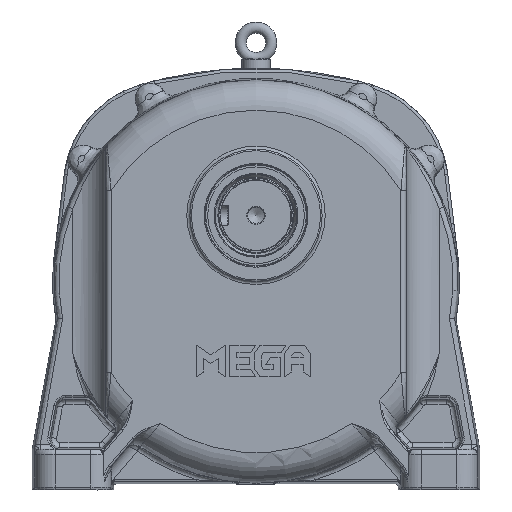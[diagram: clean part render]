
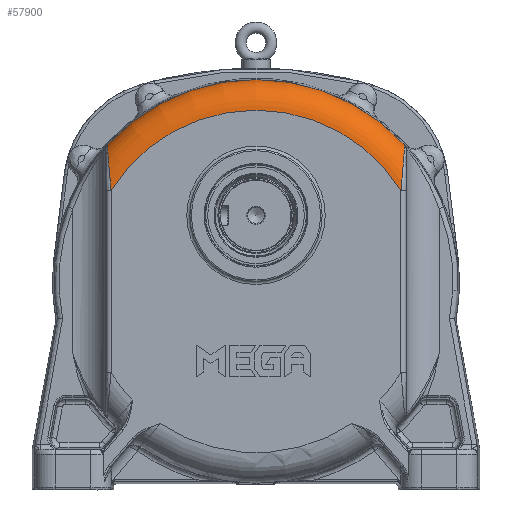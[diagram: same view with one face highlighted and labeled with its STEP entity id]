
A CAD part, front view. The second image highlights one B-rep face of the part: STEP entity #57900.
In plain terms, the highlighted toroidal (fillet/blend) face has major radius 168.286 mm and minor radius 30 mm.
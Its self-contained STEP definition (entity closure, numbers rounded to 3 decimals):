
#1997=B_SPLINE_CURVE_WITH_KNOTS('',3,(#111094,#111095,#111096,#111097),
 .UNSPECIFIED.,.F.,.F.,(4,4),(0.,0.483),.UNSPECIFIED.);
#1998=B_SPLINE_CURVE_WITH_KNOTS('',3,(#111148,#111149,#111150,#111151,#111152,
#111153,#111154,#111155),.UNSPECIFIED.,.F.,.F.,(4,1,1,1,1,4),(-4.797,
-3.426,-2.056,-1.028,-0.685,
0.),.UNSPECIFIED.);
#2010=B_SPLINE_CURVE_WITH_KNOTS('',3,(#111481,#111482,#111483,#111484,#111485,
#111486,#111487,#111488),.UNSPECIFIED.,.F.,.F.,(4,1,1,1,1,4),(-4.797,
-4.112,-3.427,-2.056,-0.685,
0.),.UNSPECIFIED.);
#2012=B_SPLINE_CURVE_WITH_KNOTS('',3,(#111516,#111517,#111518,#111519),
 .UNSPECIFIED.,.F.,.F.,(4,4),(-0.483,0.),.UNSPECIFIED.);
#3004=TOROIDAL_SURFACE('',#62902,168.286,30.);
#6375=FACE_OUTER_BOUND('',#9922,.T.);
#9922=EDGE_LOOP('',(#43105,#43106,#43107,#43108,#43109,#43110));
#19577=CIRCLE('',#62598,168.286);
#19728=CIRCLE('',#62903,198.284);
#23830=VERTEX_POINT('',#106384);
#23831=VERTEX_POINT('',#106386);
#24138=VERTEX_POINT('',#111051);
#24140=VERTEX_POINT('',#111092);
#24152=VERTEX_POINT('',#111479);
#24154=VERTEX_POINT('',#111514);
#30425=EDGE_CURVE('',#23831,#23830,#19577,.T.);
#30926=EDGE_CURVE('',#24140,#24138,#1997,.T.);
#30928=EDGE_CURVE('',#23831,#24140,#1998,.T.);
#30950=EDGE_CURVE('',#24152,#23830,#2010,.T.);
#30953=EDGE_CURVE('',#24154,#24152,#2012,.T.);
#30961=EDGE_CURVE('',#24154,#24138,#19728,.T.);
#43105=ORIENTED_EDGE('',*,*,#30928,.F.);
#43106=ORIENTED_EDGE('',*,*,#30425,.T.);
#43107=ORIENTED_EDGE('',*,*,#30950,.F.);
#43108=ORIENTED_EDGE('',*,*,#30953,.F.);
#43109=ORIENTED_EDGE('',*,*,#30961,.T.);
#43110=ORIENTED_EDGE('',*,*,#30926,.F.);
#57900=ADVANCED_FACE('',(#6375),#3004,.T.);
#62598=AXIS2_PLACEMENT_3D('',#106387,#72865,#72866);
#62902=AXIS2_PLACEMENT_3D('',#111604,#73637,#73638);
#62903=AXIS2_PLACEMENT_3D('',#111605,#73639,#73640);
#72865=DIRECTION('center_axis',(0.,1.,0.));
#72866=DIRECTION('ref_axis',(-1.,0.,0.));
#73637=DIRECTION('center_axis',(0.,1.,0.));
#73638=DIRECTION('ref_axis',(0.,0.,1.));
#73639=DIRECTION('center_axis',(0.,-1.,0.));
#73640=DIRECTION('ref_axis',(-1.,0.,0.));
#106384=CARTESIAN_POINT('',(129.809,-19.258,87.77));
#106386=CARTESIAN_POINT('',(-155.191,-19.258,87.77));
#106387=CARTESIAN_POINT('Origin',(-12.691,-19.258,-1.75));
#111051=CARTESIAN_POINT('',(-159.189,10.455,131.873));
#111092=CARTESIAN_POINT('',(-158.812,4.742,131.388));
#111094=CARTESIAN_POINT('Ctrl Pts',(-158.812,4.742,
131.388));
#111095=CARTESIAN_POINT('Ctrl Pts',(-158.853,6.59,
131.904));
#111096=CARTESIAN_POINT('Ctrl Pts',(-158.979,8.555,
132.076));
#111097=CARTESIAN_POINT('Ctrl Pts',(-159.189,10.455,131.873));
#111148=CARTESIAN_POINT('Ctrl Pts',(-155.191,-19.258,
87.77));
#111149=CARTESIAN_POINT('Ctrl Pts',(-155.603,-19.258,
92.597));
#111150=CARTESIAN_POINT('Ctrl Pts',(-156.436,-18.415,
102.342));
#111151=CARTESIAN_POINT('Ctrl Pts',(-157.535,-14.01,
115.486));
#111152=CARTESIAN_POINT('Ctrl Pts',(-158.217,-7.794,
123.899));
#111153=CARTESIAN_POINT('Ctrl Pts',(-158.614,-1.566,
128.866));
#111154=CARTESIAN_POINT('Ctrl Pts',(-158.755,2.119,
130.656));
#111155=CARTESIAN_POINT('Ctrl Pts',(-158.812,4.742,
131.388));
#111479=CARTESIAN_POINT('',(133.43,4.742,131.388));
#111481=CARTESIAN_POINT('Ctrl Pts',(133.43,4.742,131.388));
#111482=CARTESIAN_POINT('Ctrl Pts',(133.373,2.119,130.656));
#111483=CARTESIAN_POINT('Ctrl Pts',(133.184,-2.797,
128.269));
#111484=CARTESIAN_POINT('Ctrl Pts',(132.605,-10.577,
121.035));
#111485=CARTESIAN_POINT('Ctrl Pts',(131.666,-16.542,109.602));
#111486=CARTESIAN_POINT('Ctrl Pts',(130.635,-18.936,
97.452));
#111487=CARTESIAN_POINT('Ctrl Pts',(130.015,-19.258,
90.184));
#111488=CARTESIAN_POINT('Ctrl Pts',(129.809,-19.258,
87.77));
#111514=CARTESIAN_POINT('',(133.806,10.455,131.873));
#111516=CARTESIAN_POINT('Ctrl Pts',(133.806,10.455,131.873));
#111517=CARTESIAN_POINT('Ctrl Pts',(133.596,8.555,132.076));
#111518=CARTESIAN_POINT('Ctrl Pts',(133.471,6.59,131.904));
#111519=CARTESIAN_POINT('Ctrl Pts',(133.43,4.742,131.388));
#111604=CARTESIAN_POINT('Origin',(-12.691,10.742,-1.75));
#111605=CARTESIAN_POINT('Origin',(-12.691,10.455,-1.75));
